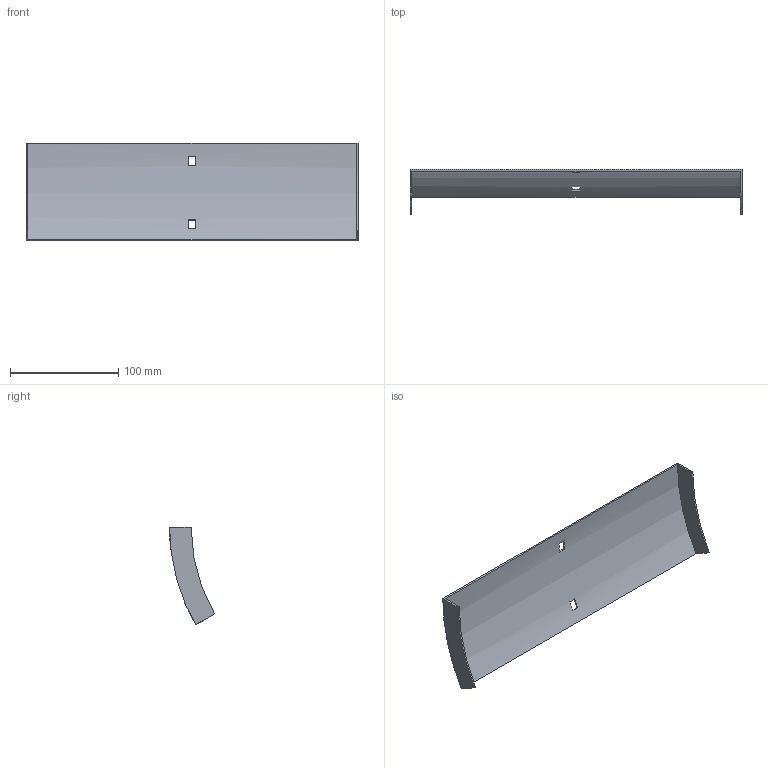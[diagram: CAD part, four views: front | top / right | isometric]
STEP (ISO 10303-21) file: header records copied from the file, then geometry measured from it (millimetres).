
FILE_DESCRIPTION (( 'STEP AP214' ), '1' );
FILE_NAME ('35N1C300.step', '2025-02-21T09:13:04', ( '' ), ( '' ), 'SwSTEP 2.0', 'SolidWorks 2023', '' );
FILE_SCHEMA (( 'AUTOMOTIVE_DESIGN' ));
Length unit declared in the file: millimetre
Products named in the file (1): 35N1C300
Bounding box: 307 x 41.5 x 90.25 mm (x, y, z)
Volume: 48097.4 mm3; surface area: 65508.6 mm2
Topology: 1 solids, 1 shells, 18 faces, 48 edges, 32 vertices
Faces by surface type: plane 14, cylinder 4
Entity records: 599 total; most frequent: DIRECTION 102, CARTESIAN_POINT 99, ORIENTED_EDGE 96, EDGE_CURVE 48, AXIS2_PLACEMENT_3D 35, VECTOR 32, LINE 32, VERTEX_POINT 32
